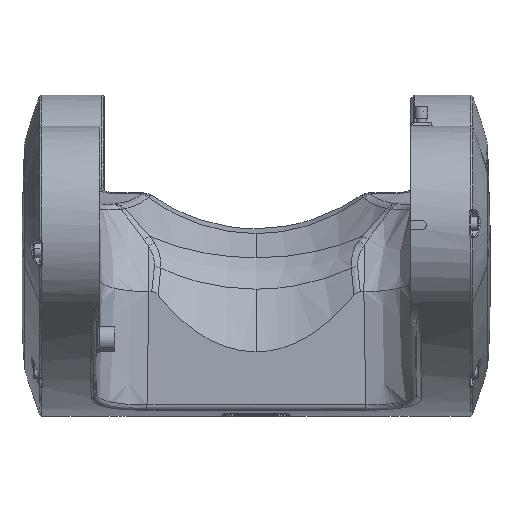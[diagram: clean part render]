
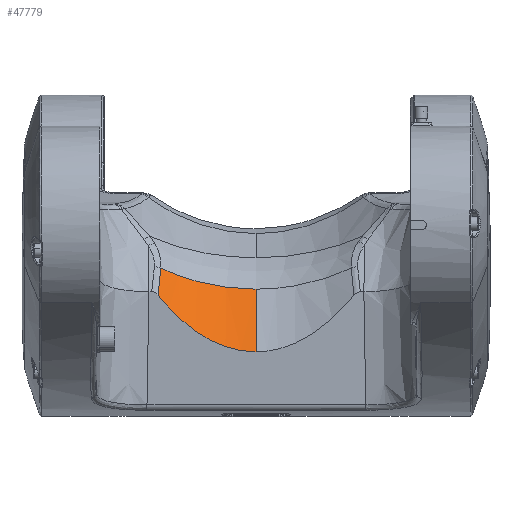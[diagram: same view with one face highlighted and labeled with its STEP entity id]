
A CAD part, top view. The second image highlights one B-rep face of the part: STEP entity #47779.
In plain terms, the highlighted cylindrical face has radius 75 mm (diameter 150 mm), a partial arc.
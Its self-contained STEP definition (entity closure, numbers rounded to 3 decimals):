
#236 = DIRECTION ( 'NONE',  ( 0., -0.454, -0.891 ) ) ;
#2626 = VECTOR ( 'NONE', #13335, 1000. ) ;
#2743 = CARTESIAN_POINT ( 'NONE',  ( -12.989, -24.063, 293.601 ) ) ;
#3851 = VERTEX_POINT ( 'NONE', #10218 ) ;
#3950 = CARTESIAN_POINT ( 'NONE',  ( 0., 17.371, 355.412 ) ) ;
#4684 = CARTESIAN_POINT ( 'NONE',  ( -34.616, -18.076, 298.71 ) ) ;
#6454 = CARTESIAN_POINT ( 'NONE',  ( -6.51, -24.807, 292.966 ) ) ;
#6534 = VERTEX_POINT ( 'NONE', #18655 ) ;
#7356 = CARTESIAN_POINT ( 'NONE',  ( -13.639, -49.639, 305.381 ) ) ;
#8415 = CARTESIAN_POINT ( 'NONE',  ( -18.598, -23.053, 294.463 ) ) ;
#8635 = VERTEX_POINT ( 'NONE', #12596 ) ;
#9278 = EDGE_CURVE ( 'NONE', #3851, #6534, #36675, .T. ) ;
#9423 = EDGE_CURVE ( 'NONE', #3851, #37592, #12364, .T. ) ;
#10218 = CARTESIAN_POINT ( 'NONE',  ( 0., -49.639, 305.381 ) ) ;
#10455 = CARTESIAN_POINT ( 'NONE',  ( -37.466, -16.723, 299.865 ) ) ;
#11755 = ORIENTED_EDGE ( 'NONE', *, *, #9278, .T. ) ;
#12181 = AXIS2_PLACEMENT_3D ( 'NONE', #3950, #34007, #236 ) ;
#12364 =( BOUNDED_CURVE ( )  B_SPLINE_CURVE ( 3, ( #45608, #7356, #22503, #37656 ),
 .UNSPECIFIED., .F., .T. ) 
 B_SPLINE_CURVE_WITH_KNOTS ( ( 4, 4 ),
 ( 0., 0.539 ),
 .UNSPECIFIED. ) 
 CURVE ( )  GEOMETRIC_REPRESENTATION_ITEM ( )  RATIONAL_B_SPLINE_CURVE ( ( 1., 0.976, 0.976, 1. ) ) 
 REPRESENTATION_ITEM ( '' )  );
#12596 = CARTESIAN_POINT ( 'NONE',  ( -37.466, -16.723, 299.865 ) ) ;
#12626 = CARTESIAN_POINT ( 'NONE',  ( -22.533, -22.144, 295.239 ) ) ;
#13335 = DIRECTION ( 'NONE',  ( 0., 0.891, -0.454 ) ) ;
#14647 = CARTESIAN_POINT ( 'NONE',  ( -11.373, -24.282, 293.414 ) ) ;
#15389 = CARTESIAN_POINT ( 'NONE',  ( -19.196, -22.925, 294.573 ) ) ;
#16075 = B_SPLINE_CURVE_WITH_KNOTS ( 'NONE', 3,
 ( #26567, #30285, #6454, #14647, #2743, #17892, #29812, #33049, #8415, #38959, #15389, #38229, #12626, #46170, #26797, #23315, #41964, #30530, #16116, #42450, #45687, #19118, #30771, #4684, #31507 ),
 .UNSPECIFIED., .F., .F.,
 ( 4, 2, 2, 1, 1, 2, 2, 2, 2, 1, 1, 1, 2, 2, 4 ),
 ( 0., 0.25, 0.375, 0.437, 0.469, 0.484, 0.5, 0.625, 0.687, 0.719, 0.734, 0.742, 0.746, 0.75, 1. ),
 .UNSPECIFIED. ) ;
#16116 = CARTESIAN_POINT ( 'NONE',  ( -28.379, -20.39, 296.736 ) ) ;
#17070 = CARTESIAN_POINT ( 'NONE',  ( 0., -16.678, 288.587 ) ) ;
#17892 = CARTESIAN_POINT ( 'NONE',  ( -15.401, -23.669, 293.937 ) ) ;
#18073 = EDGE_CURVE ( 'NONE', #6534, #8635, #16075, .T. ) ;
#18655 = CARTESIAN_POINT ( 'NONE',  ( 0., -24.982, 292.818 ) ) ;
#19118 = CARTESIAN_POINT ( 'NONE',  ( -28.667, -20.292, 296.819 ) ) ;
#22503 = CARTESIAN_POINT ( 'NONE',  ( -26.786, -42.032, 305.58 ) ) ;
#22602 = CARTESIAN_POINT ( 'NONE',  ( -38.151, -23.771, 303.904 ) ) ;
#23315 = CARTESIAN_POINT ( 'NONE',  ( -26.796, -20.906, 296.295 ) ) ;
#24216 = EDGE_CURVE ( 'NONE', #8635, #37592, #38547, .T. ) ;
#25602 = CARTESIAN_POINT ( 'NONE',  ( -38.491, -27.367, 305.964 ) ) ;
#26567 = CARTESIAN_POINT ( 'NONE',  ( 0., -24.982, 292.818 ) ) ;
#26797 = CARTESIAN_POINT ( 'NONE',  ( -25.639, -21.264, 295.99 ) ) ;
#27954 = ORIENTED_EDGE ( 'NONE', *, *, #18073, .T. ) ;
#29055 = FACE_OUTER_BOUND ( 'NONE', #31940, .T. ) ;
#29812 = CARTESIAN_POINT ( 'NONE',  ( -16.604, -23.456, 294.12 ) ) ;
#30285 = CARTESIAN_POINT ( 'NONE',  ( -3.25, -24.982, 292.818 ) ) ;
#30530 = CARTESIAN_POINT ( 'NONE',  ( -28.044, -20.502, 296.64 ) ) ;
#30771 = CARTESIAN_POINT ( 'NONE',  ( -31.688, -19.261, 297.699 ) ) ;
#31507 = CARTESIAN_POINT ( 'NONE',  ( -37.466, -16.723, 299.865 ) ) ;
#31940 = EDGE_LOOP ( 'NONE', ( #41650, #11755, #27954, #44454 ) ) ;
#33049 = CARTESIAN_POINT ( 'NONE',  ( -18.001, -23.178, 294.357 ) ) ;
#34007 = DIRECTION ( 'NONE',  ( 0., 0.891, -0.454 ) ) ;
#36675 = LINE ( 'NONE', #17070, #2626 ) ;
#37490 = CARTESIAN_POINT ( 'NONE',  ( -38.491, -27.367, 305.964 ) ) ;
#37592 = VERTEX_POINT ( 'NONE', #37490 ) ;
#37656 = CARTESIAN_POINT ( 'NONE',  ( -38.491, -27.367, 305.964 ) ) ;
#38219 = CYLINDRICAL_SURFACE ( 'NONE', #12181, 75. ) ;
#38229 = CARTESIAN_POINT ( 'NONE',  ( -20.967, -22.534, 294.906 ) ) ;
#38547 =( BOUNDED_CURVE ( )  B_SPLINE_CURVE ( 3, ( #10455, #45216, #22602, #25602 ),
 .UNSPECIFIED., .F., .T. ) 
 B_SPLINE_CURVE_WITH_KNOTS ( ( 4, 4 ),
 ( 3.665, 3.681 ),
 .UNSPECIFIED. ) 
 CURVE ( )  GEOMETRIC_REPRESENTATION_ITEM ( )  RATIONAL_B_SPLINE_CURVE ( ( 1., 1., 1., 1. ) ) 
 REPRESENTATION_ITEM ( '' )  );
#38959 = CARTESIAN_POINT ( 'NONE',  ( -18.995, -22.968, 294.536 ) ) ;
#41650 = ORIENTED_EDGE ( 'NONE', *, *, #9423, .F. ) ;
#41964 = CARTESIAN_POINT ( 'NONE',  ( -27.373, -20.723, 296.452 ) ) ;
#42450 = CARTESIAN_POINT ( 'NONE',  ( -28.522, -20.341, 296.778 ) ) ;
#44454 = ORIENTED_EDGE ( 'NONE', *, *, #24216, .T. ) ;
#45216 = CARTESIAN_POINT ( 'NONE',  ( -37.81, -20.223, 301.871 ) ) ;
#45608 = CARTESIAN_POINT ( 'NONE',  ( 0., -49.639, 305.381 ) ) ;
#45687 = CARTESIAN_POINT ( 'NONE',  ( -28.618, -20.309, 296.805 ) ) ;
#46170 = CARTESIAN_POINT ( 'NONE',  ( -24.865, -21.492, 295.795 ) ) ;
#47779 = ADVANCED_FACE ( 'NONE', ( #29055 ), #38219, .F. ) ;
